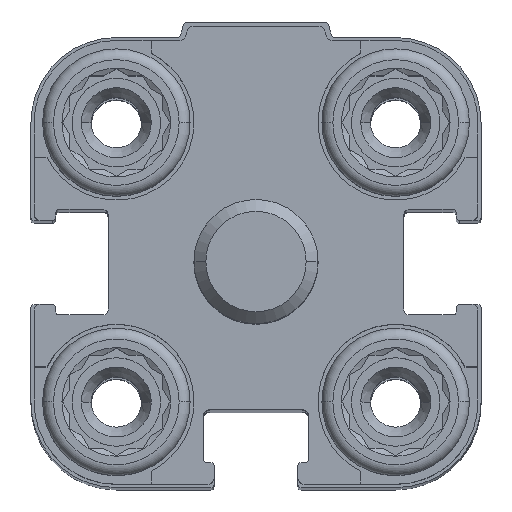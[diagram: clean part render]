
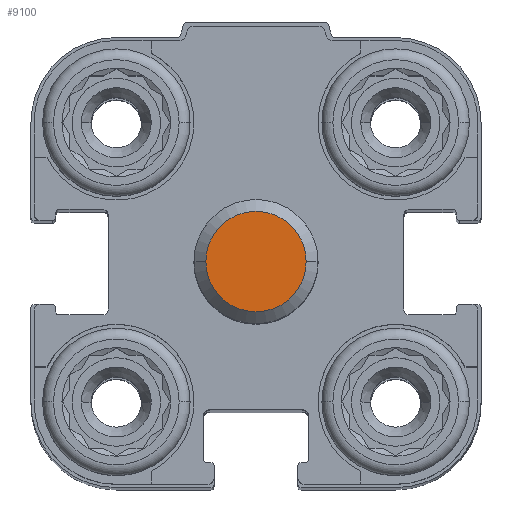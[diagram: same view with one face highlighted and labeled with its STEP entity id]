
A CAD part, top view. The second image highlights one B-rep face of the part: STEP entity #9100.
In plain terms, the highlighted planar face has unit normal (0, 0, 1).
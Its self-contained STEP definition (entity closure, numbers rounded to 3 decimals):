
#14 = DIRECTION ( 'NONE',  ( -1., 0., 0. ) ) ;
#1021 = FACE_OUTER_BOUND ( 'NONE', #2993, .T. ) ;
#1639 = CARTESIAN_POINT ( 'NONE',  ( 3.233, 0., 24.5 ) ) ;
#1888 = CARTESIAN_POINT ( 'NONE',  ( 0., 0., 24.5 ) ) ;
#2191 = PLANE ( 'NONE',  #10240 ) ;
#2981 = EDGE_CURVE ( 'NONE', #10407, #12472, #8400, .T. ) ;
#2993 = EDGE_LOOP ( 'NONE', ( #13366, #5181 ) ) ;
#3259 = CIRCLE ( 'NONE', #7563, 3.233 ) ;
#5181 = ORIENTED_EDGE ( 'NONE', *, *, #17315, .F. ) ;
#5252 = AXIS2_PLACEMENT_3D ( 'NONE', #1888, #14788, #12017 ) ;
#7563 = AXIS2_PLACEMENT_3D ( 'NONE', #8374, #9552, #14 ) ;
#8374 = CARTESIAN_POINT ( 'NONE',  ( 0., 0., 24.5 ) ) ;
#8400 = CIRCLE ( 'NONE', #5252, 3.233 ) ;
#9030 = DIRECTION ( 'NONE',  ( 0., 0., -1. ) ) ;
#9100 = ADVANCED_FACE ( 'NONE', ( #1021 ), #2191, .F. ) ;
#9552 = DIRECTION ( 'NONE',  ( 0., 0., -1. ) ) ;
#10240 = AXIS2_PLACEMENT_3D ( 'NONE', #10885, #9030, #14678 ) ;
#10407 = VERTEX_POINT ( 'NONE', #13155 ) ;
#10885 = CARTESIAN_POINT ( 'NONE',  ( 0., 0., 24.5 ) ) ;
#12017 = DIRECTION ( 'NONE',  ( -1., 0., 0. ) ) ;
#12472 = VERTEX_POINT ( 'NONE', #1639 ) ;
#13155 = CARTESIAN_POINT ( 'NONE',  ( -3.233, 0., 24.5 ) ) ;
#13366 = ORIENTED_EDGE ( 'NONE', *, *, #2981, .F. ) ;
#14678 = DIRECTION ( 'NONE',  ( 0., 1., 0. ) ) ;
#14788 = DIRECTION ( 'NONE',  ( 0., 0., -1. ) ) ;
#17315 = EDGE_CURVE ( 'NONE', #12472, #10407, #3259, .T. ) ;
